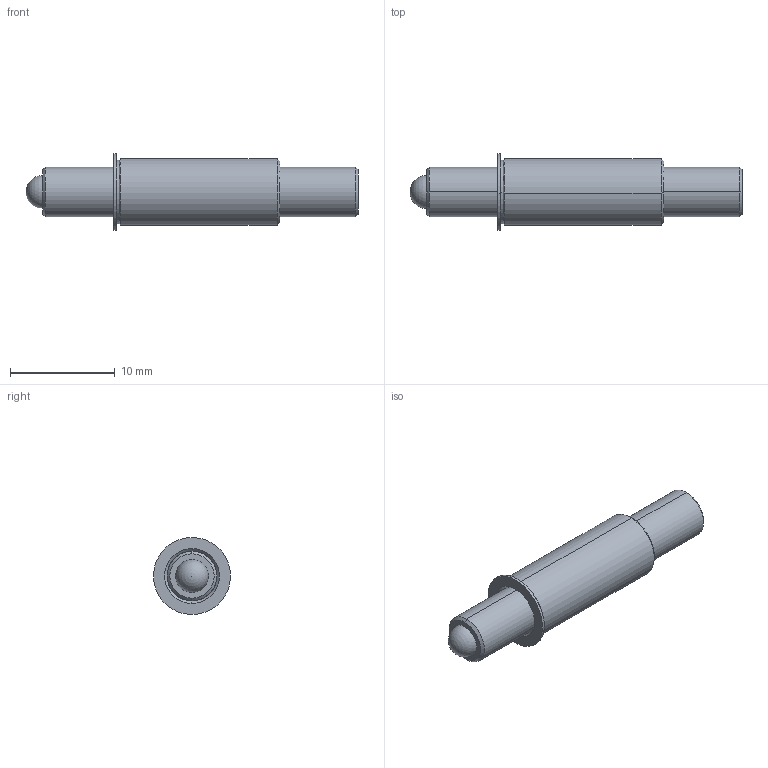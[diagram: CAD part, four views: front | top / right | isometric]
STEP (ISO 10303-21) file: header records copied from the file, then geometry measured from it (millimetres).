
FILE_DESCRIPTION (( 'STEP AP214' ), '1' );
FILE_NAME ('TSB187-100-1250_625.STEP', '2013-03-13T13:27:35', ( 'workpc' ), ( 'Microsoft' ), 'SwSTEP 2.0', 'SolidWorks 2013', '' );
FILE_SCHEMA (( 'AUTOMOTIVE_DESIGN' ));
Length unit declared in the file: inch
Products named in the file (1): TSB187-100-1250_625
Bounding box: 31.75 x 7.36 x 7.36 mm (x, y, z)
Surface area: 1117.7 mm2 (no closed solid volume)
Topology: 0 solids, 3 shells, 35 faces, 79 edges, 49 vertices
Faces by surface type: cone 12, plane 11, cylinder 10, sphere 2
Entity records: 1418 total; most frequent: DIRECTION 180, CARTESIAN_POINT 156, ORIENTED_EDGE 140, EDGE_CURVE 74, AXIS2_PLACEMENT_3D 70, VERTEX_POINT 46, EDGE_LOOP 40, LINE 40
